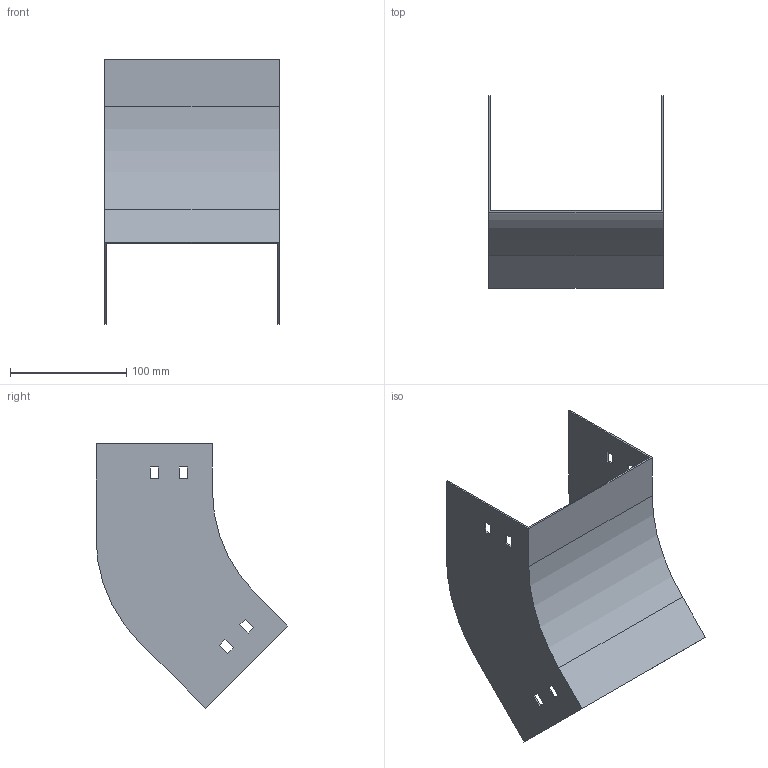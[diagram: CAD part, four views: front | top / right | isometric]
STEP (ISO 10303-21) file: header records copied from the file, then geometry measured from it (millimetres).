
FILE_DESCRIPTION (( 'STEP AP214' ), '1' );
FILE_NAME ('D4_151.step', '2025-07-16T09:06:59', ( '' ), ( '' ), 'SwSTEP 2.0', 'SolidWorks 2023', '' );
FILE_SCHEMA (( 'AUTOMOTIVE_DESIGN' ));
Length unit declared in the file: millimetre
Products named in the file (1): D4_151
Bounding box: 150 x 164.9 x 227.38 mm (x, y, z)
Volume: 106069.8 mm3; surface area: 143656.7 mm2
Topology: 1 solids, 1 shells, 50 faces, 144 edges, 96 vertices
Faces by surface type: plane 46, cylinder 4
Entity records: 1671 total; most frequent: CARTESIAN_POINT 291, ORIENTED_EDGE 288, DIRECTION 254, EDGE_CURVE 144, VECTOR 136, LINE 136, VERTEX_POINT 96, EDGE_LOOP 66
